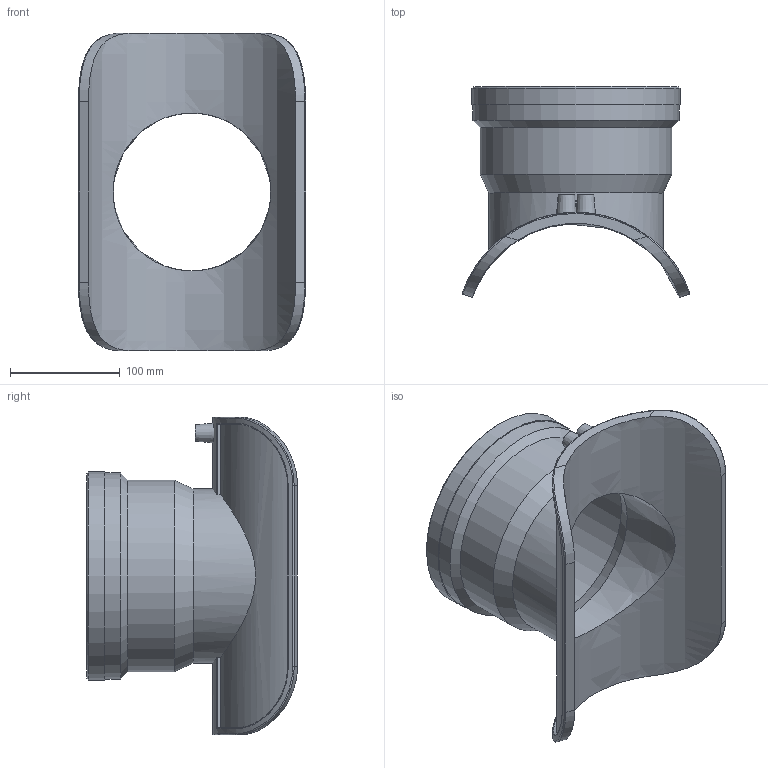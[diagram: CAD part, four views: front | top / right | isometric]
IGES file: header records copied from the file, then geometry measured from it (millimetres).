
Global section: file name: 4758V4200160.ipt; native system: Autodesk Inventor 2015; preprocessor: unknown; author: Кирилл,,11,0; organization: 20170830.202409; date: 20171106.093511; units: millimetre
Bounding box: 207.45 x 192.42 x 290 mm (x, y, z)
Volume: 1054639.3 mm3; surface area: 274105.8 mm2
Topology: 1 solids, 1 shells, 83 faces, 200 edges, 127 vertices
Faces by surface type: revolution 24, plane 23, cylinder 22, bspline 8, cone 6
Full cylindrical faces by diameter (mm): 4 x2, 159 x1, 160 x1, 175 x1, 188.1 x1, 190 x1
